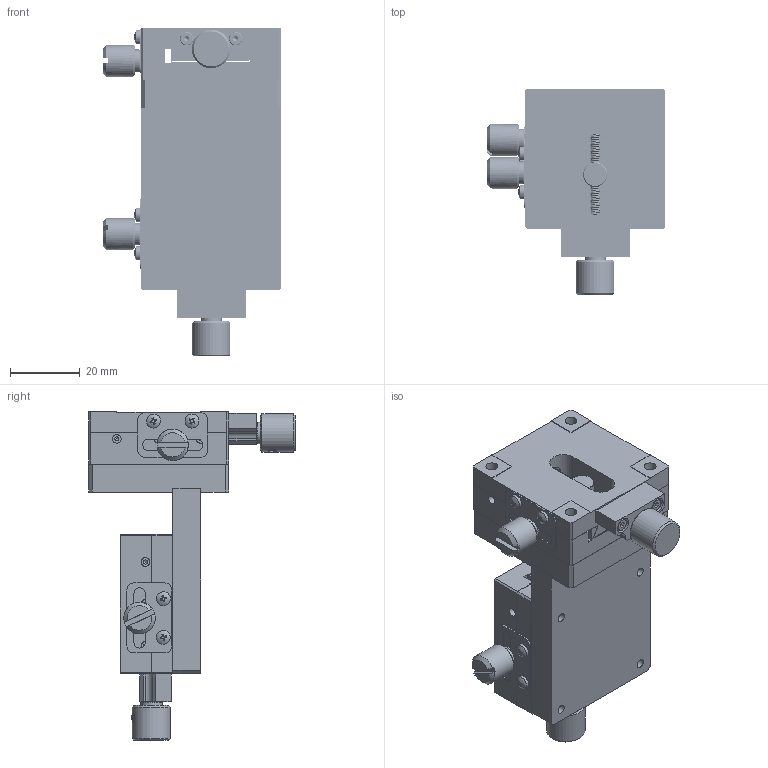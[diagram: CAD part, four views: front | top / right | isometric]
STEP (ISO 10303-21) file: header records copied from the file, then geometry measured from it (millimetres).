
FILE_DESCRIPTION (( 'STEP AP203' ), '1' );
FILE_NAME ('BFE40.STEP', '2024-07-31T03:53:49', ( 'Windows User' ), ( 'P R C' ), 'SwSTEP 2.0', 'SolidWorks 2024', '' );
FILE_SCHEMA (( 'CONFIG_CONTROL_DESIGN' ));
Products named in the file (1): BFE40
Bounding box: 50.95 x 59 x 94 mm (x, y, z)
Volume: 76331.7 mm3; surface area: 43697.6 mm2
Topology: 38 solids, 38 shells, 1548 faces, 3982 edges, 2598 vertices
Faces by surface type: plane 1048, cylinder 206, bspline 174, cone 106, torus 10, sphere 4
Full cylindrical faces by diameter (mm): 1.6 x12, 2 x8, 2.05 x6, 2.4 x4, 2.5 x36, 2.7 x4, 2.9 x2, 3 x10, 3.4 x14, 3.8 x4, 4 x10, 4.1 x2, 4.3 x4, 4.5 x2, 4.6 x4, 4.7 x2, 5.5 x6, 6 x10, 6.094 x2, 6.5 x10, 6.9 x2, 7 x2, 9 x2, 11 x2
Entity records: 89251 total; most frequent: CARTESIAN_POINT 54763, ORIENTED_EDGE 7268, DIRECTION 6058, EDGE_CURVE 3634, VERTEX_POINT 2518, LINE 2164, VECTOR 2164, EDGE_LOOP 2032
